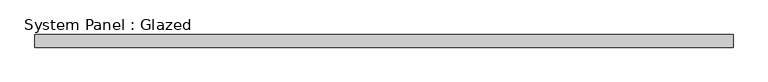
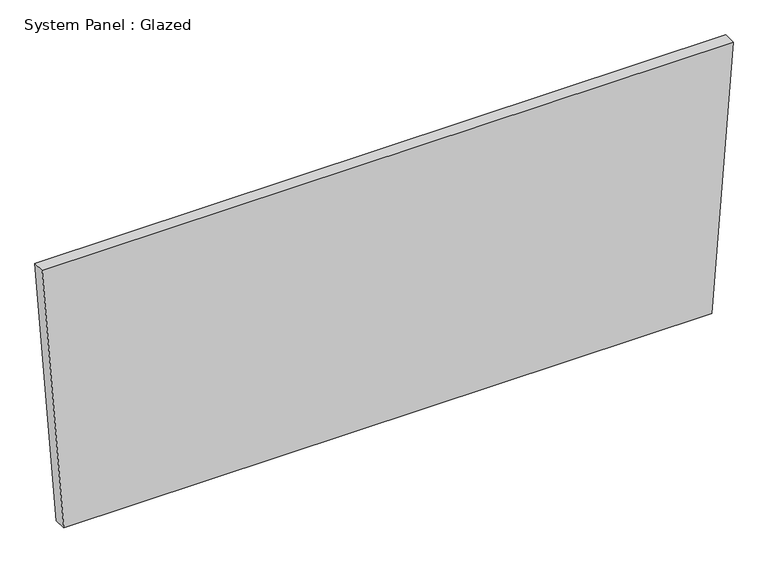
"""IFC4 building model written with IfcOpenShell, lengths in millimetres: plate geometry, System Panel : Glazed."""

from ifc_helpers import new_model, si_unit, frame, origin, place, context, project, spatial, polyline, outline, extrude, source, transform, mapped, element, save


def system_panel_glazed_3bd09d45(model_context):
    return source(origin(), model_context, "Body", "SweptSolid", [
        extrude(outline(polyline([(0.0, -659.6429597), (0.0, 659.6429597), (569.6991556, 703.5303825), (569.6991556, -703.5303825), (0.0, -659.6429597)])), frame((0.0, 19.05, 0.0), z_axis=(0.0, 1.0, 0.0), x_axis=(0.0, 0.0, 1.0)), (0.0, 0.0, 1.0), 25.4),
    ])


if __name__ == "__main__":
    model = new_model("IFC4")
    model_context = context("Model", 3, world=origin())
    ifc_project = project(units=[si_unit("LENGTHUNIT", "METRE", prefix="MILLI")], contexts=[model_context])
    site = spatial("IfcSite", under=ifc_project)
    building = spatial("IfcBuilding", under=site)
    placement = place(None, origin())
    system_panel_glazed_shape = system_panel_glazed_3bd09d45(model_context)
    element("IfcPlate", 1, ObjectType="System Panel : Glazed", at=placement, inside=building, context=model_context, shape_type="MappedRepresentation", body=[
        mapped(system_panel_glazed_shape, transform((0.0, 0.0, 0.0), x_axis=(1.0, 0.0, 0.0), y_axis=(0.0, 1.0, 0.0), z_axis=(0.0, 0.0, 1.0))),
    ])
    save(model, "model.ifc")
